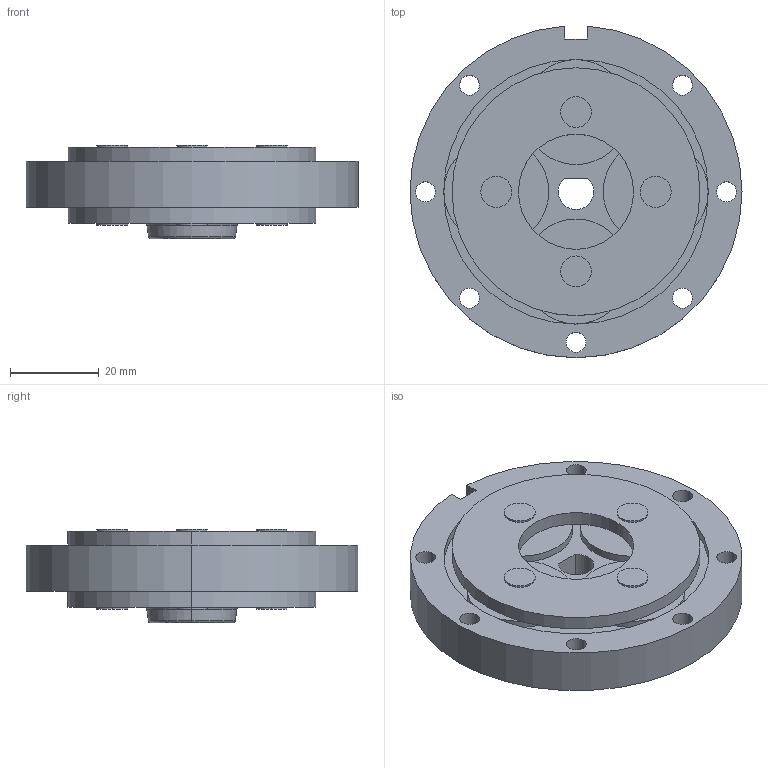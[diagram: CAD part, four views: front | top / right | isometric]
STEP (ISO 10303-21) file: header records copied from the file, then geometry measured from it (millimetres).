
FILE_DESCRIPTION (( 'STEP AP203' ), '1' );
FILE_NAME ('LGU75-5SAD.step', '2021-07-23T02:26:36', ( '' ), ( '' ), 'SwSTEP 2.0', 'SolidWorks 2021', '' );
FILE_SCHEMA (( 'CONFIG_CONTROL_DESIGN' ));
Length unit declared in the file: millimetre
Products named in the file (1): LGU75-5SAD
Bounding box: 75 x 74.92 x 21.1 mm (x, y, z)
Volume: 54846.5 mm3; surface area: 24239.3 mm2
Topology: 1 solids, 1 shells, 269 faces, 728 edges, 484 vertices
Faces by surface type: cylinder 234, plane 29, torus 4, cone 2
Entity records: 8891 total; most frequent: DIRECTION 1748, CARTESIAN_POINT 1482, ORIENTED_EDGE 1456, AXIS2_PLACEMENT_3D 750, EDGE_CURVE 728, VERTEX_POINT 484, CIRCLE 480, EDGE_LOOP 324
